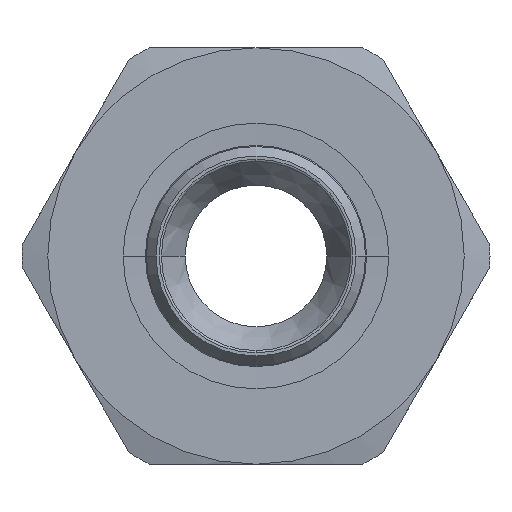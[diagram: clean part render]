
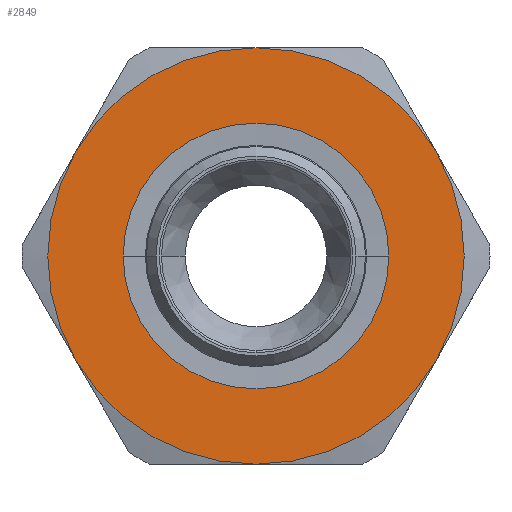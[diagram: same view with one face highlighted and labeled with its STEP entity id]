
A CAD part, left-side view. The second image highlights one B-rep face of the part: STEP entity #2849.
In plain terms, the highlighted planar face has unit normal (-1, 0, 0) as drawn and (0, 0, 1) by its records, which use the part's own axes.
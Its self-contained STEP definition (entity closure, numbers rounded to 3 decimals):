
#1176=CARTESIAN_POINT('',(0.,-15.95,6.));
#1177=VERTEX_POINT('',#1176);
#1193=CARTESIAN_POINT('',(0.,15.95,6.0));
#1194=VERTEX_POINT('',#1193);
#1201=CARTESIAN_POINT('',(0.,0.,6.0));
#1202=DIRECTION('',(0.0,0.0,-1.0));
#1203=DIRECTION('',(0.0,-1.0,0.0));
#1204=AXIS2_PLACEMENT_3D('',#1201,#1202,#1203);
#1205=CIRCLE('',#1204,15.95);
#1206=EDGE_CURVE('',#1177,#1194,#1205,.T.);
#1663=CARTESIAN_POINT('',(0.,0.,6.0));
#1664=DIRECTION('',(0.0,0.0,-1.0));
#1665=DIRECTION('',(0.0,-1.0,0.0));
#1666=AXIS2_PLACEMENT_3D('',#1663,#1664,#1665);
#1667=CIRCLE('',#1666,15.95);
#1668=EDGE_CURVE('',#1194,#1177,#1667,.T.);
#2222=CARTESIAN_POINT('',(12.5,-21.651,6.));
#2223=VERTEX_POINT('',#2222);
#2237=CARTESIAN_POINT('',(-12.5,-21.651,6.));
#2238=VERTEX_POINT('',#2237);
#2239=CARTESIAN_POINT('',(0.,0.0,6.0));
#2240=DIRECTION('',(0.0,0.0,1.0));
#2241=DIRECTION('',(1.0,0.0,0.0));
#2242=AXIS2_PLACEMENT_3D('',#2239,#2240,#2241);
#2243=CIRCLE('',#2242,25.);
#2244=EDGE_CURVE('',#2238,#2223,#2243,.T.);
#2322=CARTESIAN_POINT('',(-25.0,0.,6.));
#2323=VERTEX_POINT('',#2322);
#2324=CARTESIAN_POINT('',(0.,0.0,6.0));
#2325=DIRECTION('',(0.0,0.0,1.0));
#2326=DIRECTION('',(1.0,0.0,0.0));
#2327=AXIS2_PLACEMENT_3D('',#2324,#2325,#2326);
#2328=CIRCLE('',#2327,25.);
#2329=EDGE_CURVE('',#2323,#2238,#2328,.T.);
#2406=CARTESIAN_POINT('',(-12.5,21.651,6.));
#2407=VERTEX_POINT('',#2406);
#2408=CARTESIAN_POINT('',(0.,0.0,6.0));
#2409=DIRECTION('',(0.0,0.0,1.0));
#2410=DIRECTION('',(1.0,0.0,0.0));
#2411=AXIS2_PLACEMENT_3D('',#2408,#2409,#2410);
#2412=CIRCLE('',#2411,25.);
#2413=EDGE_CURVE('',#2407,#2323,#2412,.T.);
#2490=CARTESIAN_POINT('',(12.5,21.651,6.));
#2491=VERTEX_POINT('',#2490);
#2492=CARTESIAN_POINT('',(0.,0.0,6.0));
#2493=DIRECTION('',(0.0,0.0,1.0));
#2494=DIRECTION('',(1.0,0.0,0.0));
#2495=AXIS2_PLACEMENT_3D('',#2492,#2493,#2494);
#2496=CIRCLE('',#2495,25.);
#2497=EDGE_CURVE('',#2491,#2407,#2496,.T.);
#2575=CARTESIAN_POINT('',(25.0,0.0,6.));
#2576=VERTEX_POINT('',#2575);
#2577=CARTESIAN_POINT('',(0.,0.0,6.0));
#2578=DIRECTION('',(0.0,0.0,1.0));
#2579=DIRECTION('',(1.0,0.0,0.0));
#2580=AXIS2_PLACEMENT_3D('',#2577,#2578,#2579);
#2581=CIRCLE('',#2580,25.);
#2582=EDGE_CURVE('',#2576,#2491,#2581,.T.);
#2659=CARTESIAN_POINT('',(0.,0.0,6.0));
#2660=DIRECTION('',(0.0,0.0,1.0));
#2661=DIRECTION('',(1.0,0.0,0.0));
#2662=AXIS2_PLACEMENT_3D('',#2659,#2660,#2661);
#2663=CIRCLE('',#2662,25.);
#2664=EDGE_CURVE('',#2223,#2576,#2663,.T.);
#2832=CARTESIAN_POINT('',(0.,0.,6.0));
#2833=DIRECTION('',(0.0,0.0,1.0));
#2834=DIRECTION('',(1.0,0.0,0.0));
#2835=AXIS2_PLACEMENT_3D('',#2832,#2833,#2834);
#2836=PLANE('',#2835);
#2837=ORIENTED_EDGE('',*,*,#2664,.T.);
#2838=ORIENTED_EDGE('',*,*,#2582,.T.);
#2839=ORIENTED_EDGE('',*,*,#2497,.T.);
#2840=ORIENTED_EDGE('',*,*,#2413,.T.);
#2841=ORIENTED_EDGE('',*,*,#2329,.T.);
#2842=ORIENTED_EDGE('',*,*,#2244,.T.);
#2843=EDGE_LOOP('',(#2837,#2838,#2839,#2840,#2841,#2842));
#2844=FACE_OUTER_BOUND('',#2843,.T.);
#2845=ORIENTED_EDGE('',*,*,#1206,.T.);
#2846=ORIENTED_EDGE('',*,*,#1668,.T.);
#2847=EDGE_LOOP('',(#2845,#2846));
#2848=FACE_BOUND('',#2847,.T.);
#2849=ADVANCED_FACE('',(#2844,#2848),#2836,.T.);
